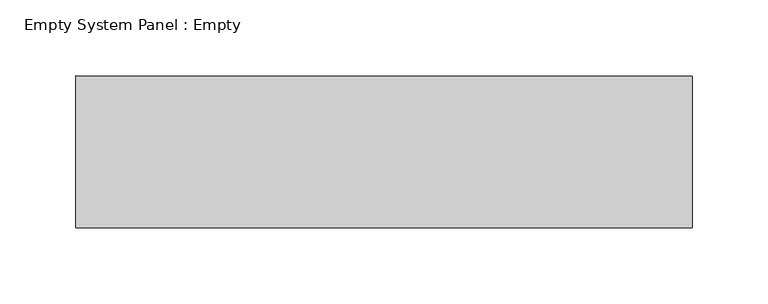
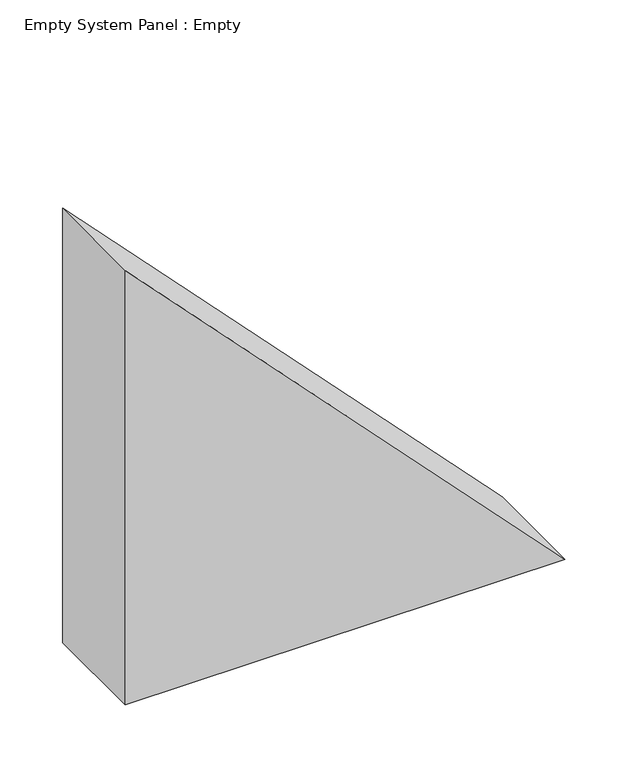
"""IFC4 building model written with IfcOpenShell, lengths in millimetres: plate geometry, Empty System Panel : Empty."""

import ifcopenshell
import ifcopenshell.guid

model = None  # the IFC model being written
_history = None  # IfcOwnerHistory: only IFC2X3 demands one
_inside = {}  # id of a spatial element -> (the spatial element, [elements in it])
_under = {}  # id of a project, library or spatial element -> (it, [spatial elements below it])
_declared = {}  # id of a project -> (the project, [libraries it declares])
_typed = {}  # id of a type object -> (the type object, [elements of that type])
_made_of = {}  # id of a material, layer set ... -> (it, [elements and type objects made of it])


def new_model(schema):
    """Start an empty IFC model of exactly this schema.

    Asked for "IFC4X3", IfcOpenShell would pick the latest addendum, in which some entities
    have other attributes; the version numbers below select the first issue.
    IFC2X3 requires an IfcOwnerHistory on every rooted entity: one is made here for all.
    """
    global model, _history
    if schema == "IFC4X3":
        model = ifcopenshell.file(schema_version=(4, 3, 0, 0))
    else:
        model = ifcopenshell.file(schema=schema)
    _inside.clear()
    _under.clear()
    _declared.clear()
    _typed.clear()
    _made_of.clear()
    _history = None
    if model.schema == "IFC2X3":
        org = make("IfcOrganization", Name="unknown")
        user = make(
            "IfcPersonAndOrganization",
            ThePerson=make("IfcPerson", FamilyName="unknown"),
            TheOrganization=org,
        )
        app = make(
            "IfcApplication",
            ApplicationDeveloper=org,
            Version="unknown",
            ApplicationFullName="unknown",
            ApplicationIdentifier="unknown",
        )
        _history = make(
            "IfcOwnerHistory",
            OwningUser=user,
            OwningApplication=app,
            ChangeAction="ADDED",
            CreationDate=0,
        )
    return model


def make(cls, **values):
    """One entity of the class cls with the attributes given. An attribute that is None is left unset."""
    return model.create_entity(
        cls, **{name: value for name, value in values.items() if value is not None}
    )


def rooted(cls, **values):
    """An entity with a GlobalId (a new one), such as an element, a storey or a relation."""
    return make(cls, GlobalId=ifcopenshell.guid.new(), OwnerHistory=_history, **values)


def si_unit(unit_type, name, prefix=None):
    """IfcSIUnit, for example si_unit("LENGTHUNIT", "METRE", prefix="MILLI")."""
    return make("IfcSIUnit", UnitType=unit_type, Prefix=prefix, Name=name)


def assignment(units):
    """IfcUnitAssignment: the units of a project."""
    return None if units is None else make("IfcUnitAssignment", Units=units)


def point(xyz):
    """IfcCartesianPoint."""
    return None if xyz is None else make("IfcCartesianPoint", Coordinates=xyz)


def direction(xyz):
    """IfcDirection."""
    return None if xyz is None else make("IfcDirection", DirectionRatios=xyz)


def frame(location, z_axis=None, x_axis=None):
    """IfcAxis2Placement3D, a coordinate frame: its origin and axes. An axis left out is left unset."""
    return make(
        "IfcAxis2Placement3D",
        Location=point(location),
        Axis=direction(z_axis),
        RefDirection=direction(x_axis),
    )


def origin():
    """The frame at (0, 0, 0) with its axes left unset."""
    return frame((0.0, 0.0, 0.0))


def place(relative_to, where):
    """IfcLocalPlacement: puts the frame where relative to a parent placement (None: the world)."""
    return make(
        "IfcLocalPlacement", PlacementRelTo=relative_to, RelativePlacement=where
    )


def context(
    kind, dimensions, precision=None, world=None, true_north=None, identifier=None
):
    """IfcGeometricRepresentationContext, for example the 3D "Model" context."""
    return make(
        "IfcGeometricRepresentationContext",
        ContextIdentifier=identifier,
        ContextType=kind,
        CoordinateSpaceDimension=dimensions,
        Precision=precision,
        WorldCoordinateSystem=world,
        TrueNorth=true_north,
    )


def project(units=None, contexts=None):
    """IfcProject with its units and contexts."""
    return rooted(
        "IfcProject",
        Name="project",
        RepresentationContexts=contexts,
        UnitsInContext=assignment(units),
    )


def spatial(cls, under=None, at=None, **own):
    """A site, building, storey or space (cls), placed at a placement, below another one or the project."""
    s = rooted(cls, ObjectPlacement=at, **own)
    if under is not None:
        _under.setdefault(under.id(), (under, []))[1].append(s)
    return s


def polyline(points):
    """IfcPolyline through the points."""
    return make("IfcPolyline", Points=[point(p) for p in points])


def outline(outer, holes=None, kind="AREA"):
    """IfcArbitraryClosedProfileDef: a profile drawn as a closed curve; with holes, ...WithVoids."""
    if holes is None:
        return make("IfcArbitraryClosedProfileDef", ProfileType=kind, OuterCurve=outer)
    return make(
        "IfcArbitraryProfileDefWithVoids",
        ProfileType=kind,
        OuterCurve=outer,
        InnerCurves=holes,
    )


def extrude(swept, where, along, depth):
    """IfcExtrudedAreaSolid: the profile swept, set in the frame where, extruded along a direction by depth."""
    return make(
        "IfcExtrudedAreaSolid",
        SweptArea=swept,
        Position=where,
        ExtrudedDirection=direction(along),
        Depth=depth,
    )


def shape(context_of_items, identifier, shape_type, items):
    """IfcShapeRepresentation: the items that make up one representation, for example the "Body"."""
    return make(
        "IfcShapeRepresentation",
        ContextOfItems=context_of_items,
        RepresentationIdentifier=identifier,
        RepresentationType=shape_type,
        Items=items,
    )


def source(mapping_origin, context_of_items, identifier, shape_type, items):
    """IfcRepresentationMap: a shape defined once, which mapped items show again and again."""
    return make(
        "IfcRepresentationMap",
        MappingOrigin=mapping_origin,
        MappedRepresentation=shape(context_of_items, identifier, shape_type, items),
    )


def transform(
    local_origin,
    x_axis=None,
    y_axis=None,
    z_axis=None,
    scale=None,
    scale2=None,
    scale3=None,
    uniform=True,
):
    """IfcCartesianTransformationOperator3D, or its non-uniform kind. x_axis, y_axis, z_axis: its Axis1, 2, 3."""
    if uniform:
        return make(
            "IfcCartesianTransformationOperator3D",
            Axis1=direction(x_axis),
            Axis2=direction(y_axis),
            LocalOrigin=point(local_origin),
            Scale=scale,
            Axis3=direction(z_axis),
        )
    return make(
        "IfcCartesianTransformationOperator3DnonUniform",
        Axis1=direction(x_axis),
        Axis2=direction(y_axis),
        LocalOrigin=point(local_origin),
        Scale=scale,
        Axis3=direction(z_axis),
        Scale2=scale2,
        Scale3=scale3,
    )


def mapped(mapping_source, mapping_target):
    """IfcMappedItem: shows the shape of a source again, moved by a transform."""
    return make(
        "IfcMappedItem", MappingSource=mapping_source, MappingTarget=mapping_target
    )


def made_of(thing, what):
    """Note that an element or type object is made of a material, layer set ...; save() writes the relation."""
    if what is not None:
        _made_of.setdefault(what.id(), (what, []))[1].append(thing)
    return thing


def element(
    cls,
    number,
    at=None,
    inside=None,
    cuts=None,
    type_object=None,
    material=None,
    context=None,
    identifier="Body",
    shape_type=None,
    held_by="IfcProductDefinitionShape",
    body=None,
    shapes=None,
    **own,
):
    """One element of the class cls, such as IfcWall. Its Tag is "e" and its number.

    at: its placement. inside: the storey or other place that contains it. cuts: it is an
    opening in that element (IfcRelVoidsElement). A single representation is given by context,
    identifier, shape_type and body (its items); several are given by shapes. held_by: the class
    of the entity that holds the representations. save() writes the other relations.
    """
    e = rooted(cls, Tag="e%d" % number, ObjectPlacement=at, **own)
    if body is not None:
        shapes = [shape(context, identifier, shape_type, body)]
    if shapes is not None:
        e.Representation = make(held_by, Representations=shapes)
    if inside is not None:
        _inside.setdefault(inside.id(), (inside, []))[1].append(e)
    if cuts is not None:
        rooted(
            "IfcRelVoidsElement", RelatingBuildingElement=cuts, RelatedOpeningElement=e
        )
    if type_object is not None:
        _typed.setdefault(type_object.id(), (type_object, []))[1].append(e)
    return made_of(e, material)


def aggregate(whole, parts):
    """IfcRelAggregates: a whole, such as a stair, and the parts it consists of."""
    return rooted("IfcRelAggregates", RelatingObject=whole, RelatedObjects=parts)


def save(model, path):
    """Write the relations noted so far, then the file.

    IfcRelAggregates (storeys below a building ...), IfcRelContainedInSpatialStructure (elements
    in a storey), IfcRelDefinesByType, IfcRelAssociatesMaterial and IfcRelDeclares: one each for
    every whole, place, type object, material and project.
    """
    for whole, parts in _under.values():
        aggregate(whole, parts)
    for where, things in _inside.values():
        rooted(
            "IfcRelContainedInSpatialStructure",
            RelatedElements=things,
            RelatingStructure=where,
        )
    for kind, things in _typed.values():
        rooted("IfcRelDefinesByType", RelatedObjects=things, RelatingType=kind)
    for what, things in _made_of.values():
        rooted("IfcRelAssociatesMaterial", RelatedObjects=things, RelatingMaterial=what)
    for by, libraries in _declared.values():
        rooted("IfcRelDeclares", RelatingContext=by, RelatedDefinitions=libraries)
    model.write(path)


def empty_system_panel_empty_011029aa(model_context):
    return source(origin(), model_context, "Body", "SweptSolid", [
        extrude(outline(polyline([(0.0, -202.8821652), (0.0, 202.8821652), (423.630398, -202.8821652), (0.0, -202.8821652)])), frame((0.0, -50.0, 0.0), z_axis=(0.0, 1.0, 0.0), x_axis=(0.0, 0.0, 1.0)), (0.0, 0.0, 1.0), 100.0),
    ])


if __name__ == "__main__":
    model = new_model("IFC4")
    model_context = context("Model", 3, world=origin())
    ifc_project = project(units=[si_unit("LENGTHUNIT", "METRE", prefix="MILLI")], contexts=[model_context])
    site = spatial("IfcSite", under=ifc_project)
    building = spatial("IfcBuilding", under=site)
    placement = place(None, origin())
    empty_system_panel_empty_shape = empty_system_panel_empty_011029aa(model_context)
    element("IfcPlate", 1, ObjectType="Empty System Panel : Empty", at=placement, inside=building, context=model_context, shape_type="MappedRepresentation", body=[
        mapped(empty_system_panel_empty_shape, transform((0.0, 0.0, 0.0), x_axis=(1.0, 0.0, 0.0), y_axis=(0.0, 1.0, 0.0), z_axis=(0.0, 0.0, 1.0))),
    ])
    save(model, "model.ifc")
